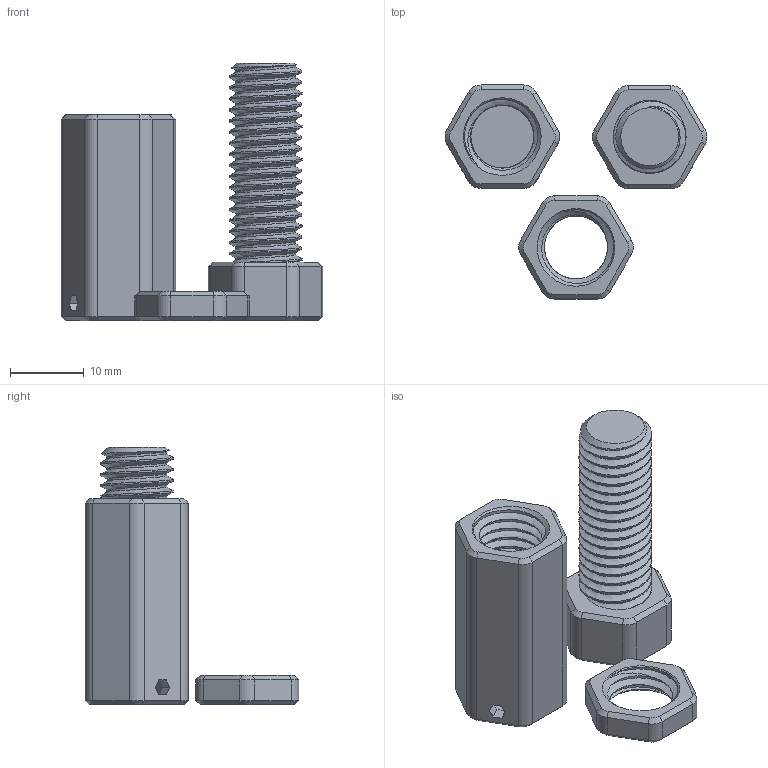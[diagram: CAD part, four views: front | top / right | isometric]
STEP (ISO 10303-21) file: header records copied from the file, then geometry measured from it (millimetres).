
FILE_DESCRIPTION(/* description */ (''),/* implementation_level */ '2;1');
FILE_NAME(/* name */ 'GPU Support for 10x3 magnet.step',/* time_stamp */ '2025-12-23T22:32:19+03:00',/* author */ (''),/* organization */ (''),/* preprocessor_version */ 'ST-DEVELOPER v20.1',/* originating_system */ 'Autodesk Translation Framework v14.21.0.0',/* authorisation */ '');
FILE_SCHEMA (('AUTOMOTIVE_DESIGN { 1 0 10303 214 3 1 1 }'));
Length unit declared in the file: millimetre
Products named in the file (4): GPU Support; Main body; Screw; Nut
Assembly tree (3 placements, depth 2):
  GPU Support
    Main body
    Screw
    Nut
Bounding box: 35.55 x 29 x 35 mm (x, y, z)
Volume: 6031.7 mm3; surface area: 5456.1 mm2
Topology: 3 solids, 3 shells, 221 faces, 567 edges, 354 vertices
Faces by surface type: cylinder 101, plane 73, cone 41, bspline 6
Full cylindrical faces by diameter (mm): 8.141 x5, 8.541 x15, 9.85 x11, 10.25 x17
Entity records: 13478 total; most frequent: CARTESIAN_POINT 8293, ORIENTED_EDGE 1134, DIRECTION 945, EDGE_CURVE 567, VERTEX_POINT 354, AXIS2_PLACEMENT_3D 328, LINE 289, VECTOR 289
